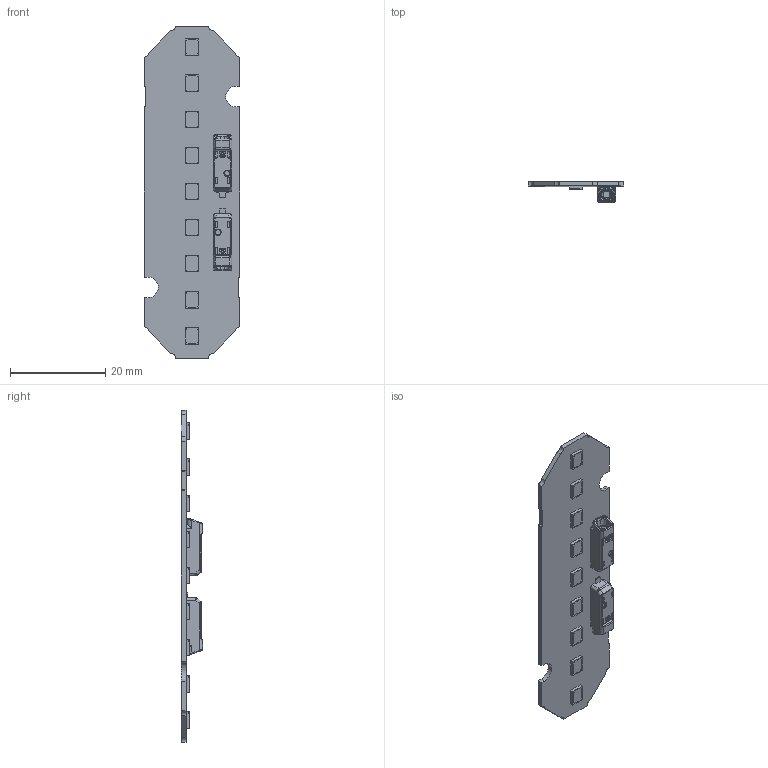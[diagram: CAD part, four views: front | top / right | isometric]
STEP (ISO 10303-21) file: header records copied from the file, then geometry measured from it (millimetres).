
FILE_DESCRIPTION(/* description */ ('Unknown'),/* implementation_level */ '2;1');
FILE_NAME(/* name */ 'LinLED 70x20mm 275lm 2C 9V sh-000 2022-04-05',/* time_stamp */ '2022-04-06T07:55:57+02:00',/* author */ ('Unknown'),/* organization */ ('Unknown'),/* preprocessor_version */ 'ST-DEVELOPER v16.7',/* originating_system */ 'Solid Edge',/* authorisation */ 'Unknown');
FILE_SCHEMA (('AUTOMOTIVE_DESIGN {1 0 10303 214 3 1 1}'));
Length unit declared in the file: millimetre
Products named in the file (1): LinLED 70x20mm 275lm 2C 9V sh-000 2022-04-05
Bounding box: 20 x 4.45 x 69.6 mm (x, y, z)
Volume: 1577.7 mm3; surface area: 3221.7 mm2
Topology: 1 solids, 1 shells, 650 faces, 1684 edges, 1054 vertices
Faces by surface type: plane 350, cylinder 140, bspline 104, cone 30, sphere 16, torus 10
Entity records: 26978 total; most frequent: CARTESIAN_POINT 7643, ORIENTED_EDGE 3320, DIRECTION 2634, EDGE_CURVE 1660, VERTEX_POINT 1048, LINE 1024, VECTOR 1024, AXIS2_PLACEMENT_3D 805
